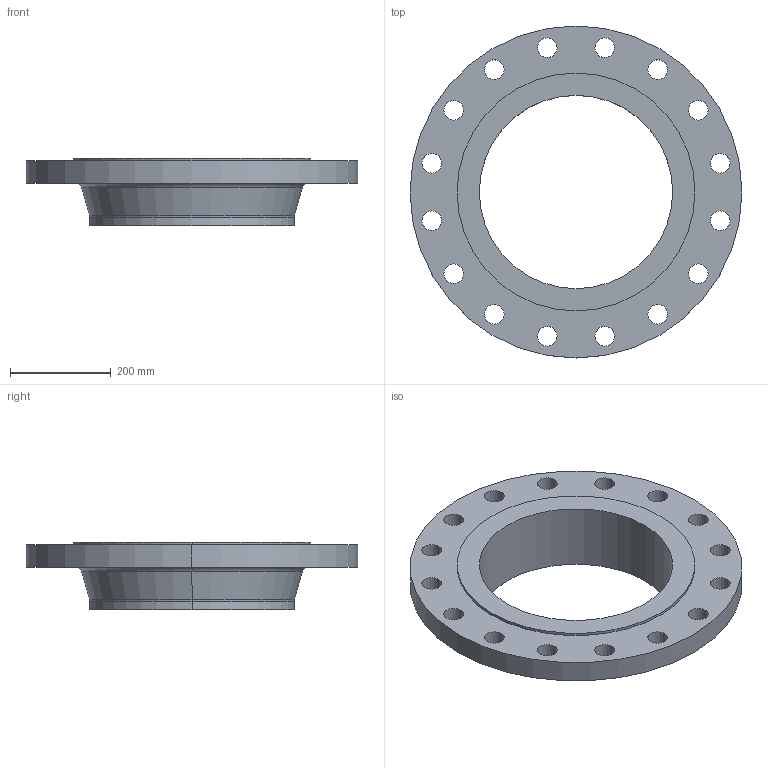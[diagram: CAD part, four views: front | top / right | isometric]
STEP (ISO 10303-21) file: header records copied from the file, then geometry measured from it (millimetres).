
FILE_DESCRIPTION (( 'STEP AP214' ), '1' );
FILE_NAME ('PN40 DN400 Type 11 - Type E Face.STEP', '2019-01-05T23:19:17', ( '' ), ( '' ), 'SwSTEP 2.0', 'SolidWorks 2019', '' );
FILE_SCHEMA (( 'AUTOMOTIVE_DESIGN' ));
Length unit declared in the file: millimetre
Products named in the file (1): PN40 DN400 Type 11 - Type E Face
Bounding box: 660 x 660 x 135 mm (x, y, z)
Volume: 11540867 mm3; surface area: 851864.8 mm2
Topology: 1 solids, 1 shells, 50 faces, 132 edges, 86 vertices
Faces by surface type: cylinder 40, torus 4, plane 4, cone 2
Entity records: 1700 total; most frequent: DIRECTION 324, CARTESIAN_POINT 269, ORIENTED_EDGE 264, AXIS2_PLACEMENT_3D 141, EDGE_CURVE 132, CIRCLE 90, EDGE_LOOP 86, VERTEX_POINT 86
